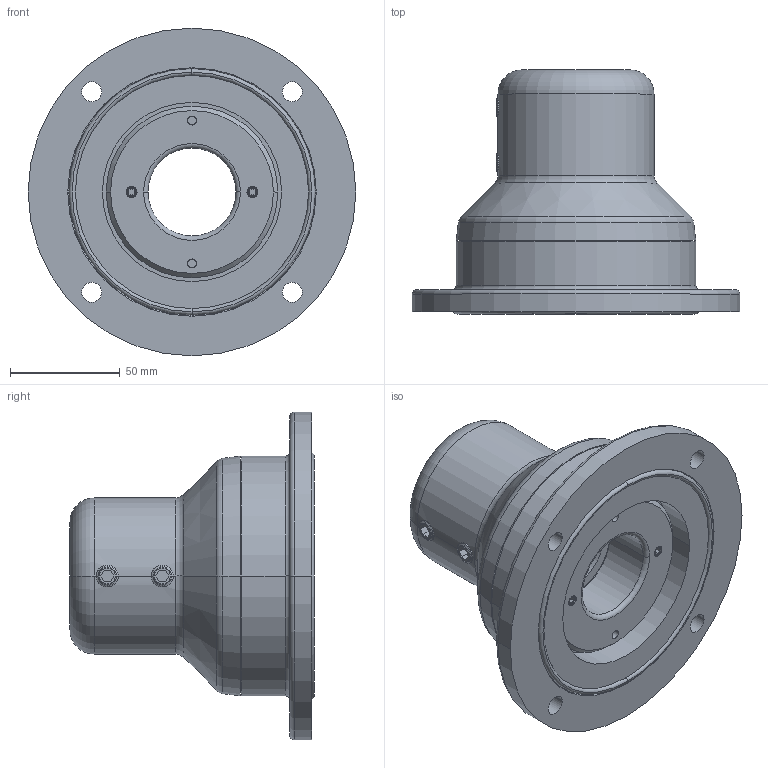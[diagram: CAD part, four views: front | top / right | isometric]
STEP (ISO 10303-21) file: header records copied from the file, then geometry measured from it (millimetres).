
FILE_DESCRIPTION((''),'2;1');
FILE_NAME('1013050500_ASM','2022-11-15T12:17:37',('Stephanie.Hoppe'),(''),'CREO PARAMETRIC BY PTC INC, 2020414','CREO PARAMETRIC BY PTC INC, 2020414','');
FILE_SCHEMA(('AUTOMOTIVE_DESIGN { 1 0 10303 214 1 1 1 1 }'));
Length unit declared in the file: millimetre
Products named in the file (12): 9503043000; 9263063000; 9502281000; 9411111000_EINB_AF0; 9503079000; 9231548000; 9231685000; 9502279000; 9263052000; 9263054000; 9231638000; 1013050500_ASM
Assembly tree (15 placements, depth 2):
  1013050500_ASM
    9503043000
    9263063000
    9502281000  x2
    9411111000_EINB_AF0
    9503079000
    9231548000
    9231685000  x2
    9502279000
    9263052000  x2
    9263054000  x2
    9231638000
Bounding box: 149 x 111 x 149 mm (x, y, z)
Volume: 546681.7 mm3; surface area: 157703.4 mm2
Topology: 15 solids, 25 shells, 296 faces, 717 edges, 477 vertices
Faces by surface type: cylinder 121, plane 74, torus 58, cone 39, sphere 4
Entity records: 15588 total; most frequent: DIRECTION 1837, CARTESIAN_POINT 1746, ORIENTED_EDGE 1096, PROPERTY_DEFINITION 771, AXIS2_PLACEMENT_3D 770, REPRESENTATION 756, PROPERTY_DEFINITION_REPRESENTATION 756, DESCRIPTIVE_REPRESENTATION_ITEM 636
